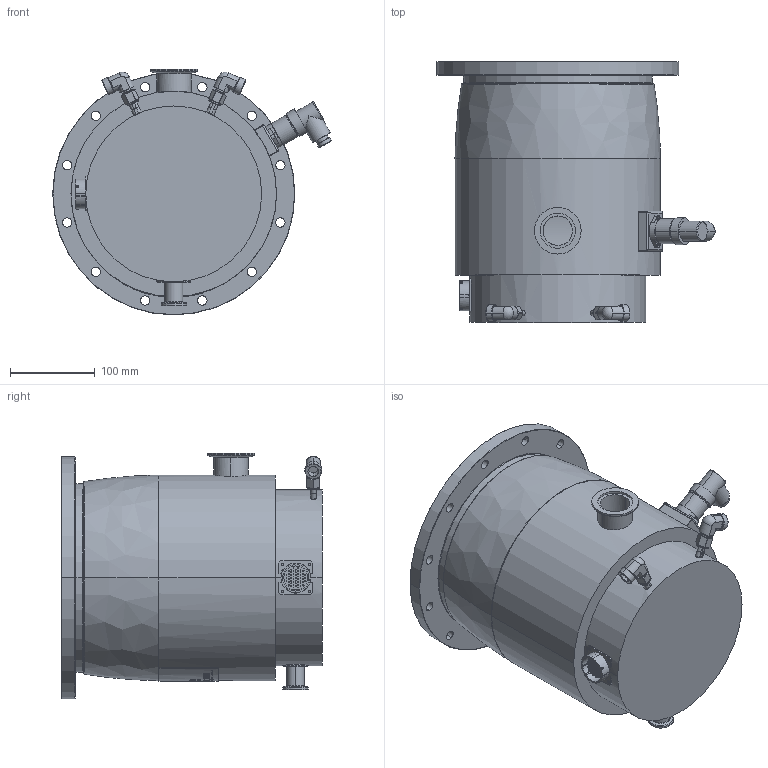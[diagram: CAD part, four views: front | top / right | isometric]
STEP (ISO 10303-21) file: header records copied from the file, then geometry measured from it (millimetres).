
FILE_DESCRIPTION((''),'2;1');
FILE_NAME('ENV-1300M-DN200ISO-F-THERMO','2008-04-02T',('NVARENNES'),(''),'PRO/ENGINEER BY PARAMETRIC TECHNOLOGY CORPORATION, 2008010','PRO/ENGINEER BY PARAMETRIC TECHNOLOGY CORPORATION, 2008010','');
FILE_SCHEMA(('CONFIG_CONTROL_DESIGN'));
Length unit declared in the file: millimetre
Products named in the file (1): ENV-1300M-DN200ISO-F-THERMO
Bounding box: 328.08 x 307.05 x 289.56 mm (x, y, z)
Volume: 13343093.5 mm3; surface area: 415724.9 mm2
Topology: 1 solids, 4 shells, 867 faces, 2236 edges, 1377 vertices
Faces by surface type: cylinder 353, plane 198, bspline 126, sphere 124, cone 44, torus 22
Entity records: 32747 total; most frequent: CARTESIAN_POINT 11847, ORIENTED_EDGE 4248, DIRECTION 4119, EDGE_CURVE 2124, AXIS2_PLACEMENT_3D 1652, VERTEX_POINT 1377, EDGE_LOOP 1039, CIRCLE 911
